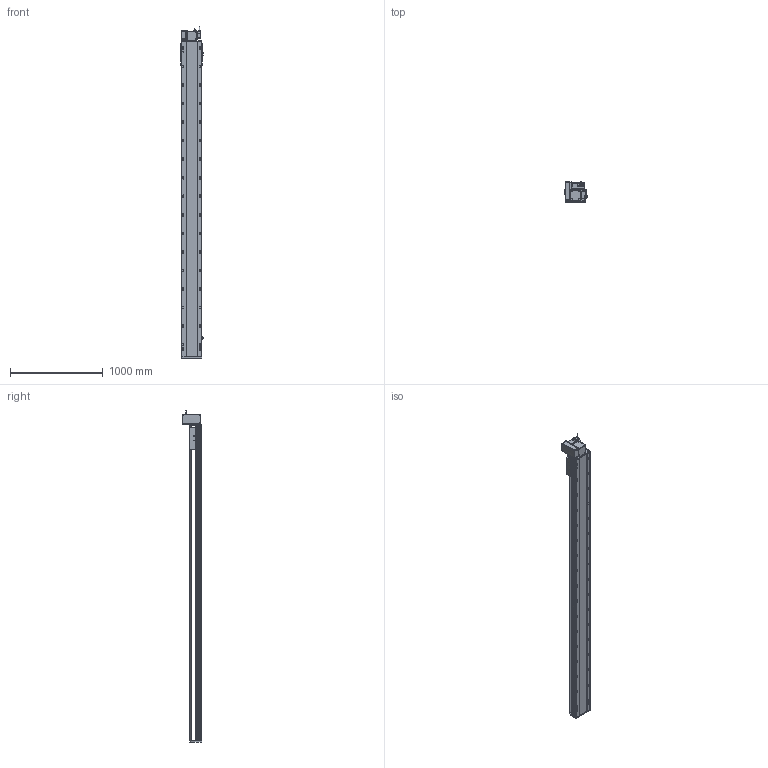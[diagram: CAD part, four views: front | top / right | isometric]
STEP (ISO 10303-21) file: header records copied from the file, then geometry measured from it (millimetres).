
FILE_DESCRIPTION (( 'STEP AP214' ), '1' );
FILE_NAME ('RTB22S-XX-3050-LW-M75-C4.STEP', '2025-12-12T07:05:56', ( '' ), ( '' ), 'SwSTEP 2.0', 'SolidWorks 2018', '' );
FILE_SCHEMA (( 'AUTOMOTIVE_DESIGN' ));
Length unit declared in the file: millimetre
Products named in the file (14): OMRON EE-SX672 传感器^RTB22S-XX-XX-LW-M75-C4; RTB22S-GY-008-M75--萇儂啣^RTB22S-LW-々湍釱蚾饜_RTB22S-XX-XX-LW-M75-C4; RTB22S-LW-々湍釱蚾饜^RTB22S-XX-XX-LW-M75-C4; RTB22S-GY-017P^RTB22S-LW-々湍釱蚾饜_RTB22S-XX-XX-LW-M75-C4; RTB22S-GY-001耜裔^RTB22S-XX-XX-LW-M75-C4; RTB22S-GY-014--々湍釱^RTB22S-LW-々湍釱蚾饜_RTB22S-XX-XX-LW-M75-C4; RTB22S-GY-007奻裔^RTB22S-XX-XX-LW-M75-C4; RTB22S-L-011菁釱^RTB22S-XX-XX-LW-M75-C4; 750W萇儂^RTB22S-XX-XX-LW-M75-C4; RTB22S-XX-3050-LW-M75-C4; RTH22-GY-013外置感应片^RTB22S-XX-XX-LW-M75-C4; RTB22S-GY-005P^RTB22S-LW-々湍釱蚾饜_RTB22S-XX-XX-LW-M75-C4; RTB22S-GY-018P^RTB22S-LW-々湍釱蚾饜_RTB22S-XX-XX-LW-M75-C4; RTB22S-L-004賑釱^RTB22S-XX-XX-LW-M75-C4
Assembly tree (16 placements, depth 3):
  RTB22S-XX-3050-LW-M75-C4
    RTB22S-L-011菁釱^RTB22S-XX-XX-LW-M75-C4
    RTB22S-GY-001耜裔^RTB22S-XX-XX-LW-M75-C4
    750W萇儂^RTB22S-XX-XX-LW-M75-C4
    RTB22S-GY-007奻裔^RTB22S-XX-XX-LW-M75-C4
    RTB22S-L-004賑釱^RTB22S-XX-XX-LW-M75-C4
    RTH22-GY-013外置感应片^RTB22S-XX-XX-LW-M75-C4
    OMRON EE-SX672 传感器^RTB22S-XX-XX-LW-M75-C4  x3
    RTB22S-LW-々湍釱蚾饜^RTB22S-XX-XX-LW-M75-C4
      RTB22S-GY-014--々湍釱^RTB22S-LW-々湍釱蚾饜_RTB22S-XX-XX-LW-M75-C4
      RTB22S-GY-017P^RTB22S-LW-々湍釱蚾饜_RTB22S-XX-XX-LW-M75-C4  x2
      RTB22S-GY-005P^RTB22S-LW-々湍釱蚾饜_RTB22S-XX-XX-LW-M75-C4
      RTB22S-GY-008-M75--萇儂啣^RTB22S-LW-々湍釱蚾饜_RTB22S-XX-XX-LW-M75-C4
      RTB22S-GY-018P^RTB22S-LW-々湍釱蚾饜_RTB22S-XX-XX-LW-M75-C4
Bounding box: 238.5 x 215.5 x 3582.2 mm (x, y, z)
Volume: 45167485.1 mm3; surface area: 4605860.8 mm2
Topology: 15 solids, 15 shells, 2163 faces, 5886 edges, 3752 vertices
Faces by surface type: plane 935, cylinder 742, bspline 296, cone 178, sphere 8, torus 4
Entity records: 59348 total; most frequent: CARTESIAN_POINT 16652, ORIENTED_EDGE 8480, DIRECTION 8334, EDGE_CURVE 4240, AXIS2_PLACEMENT_3D 3006, VERTEX_POINT 2756, VECTOR 2322, LINE 2322
